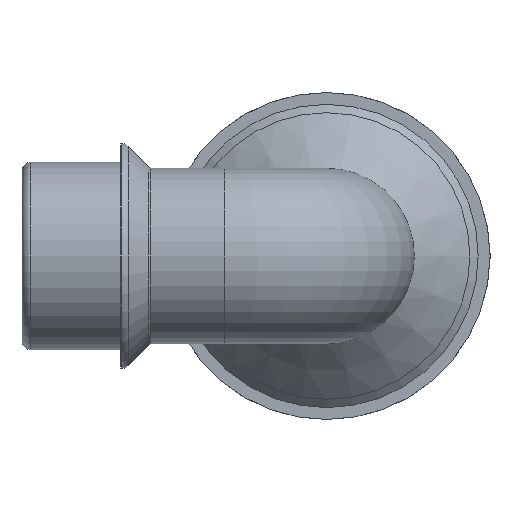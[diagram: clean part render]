
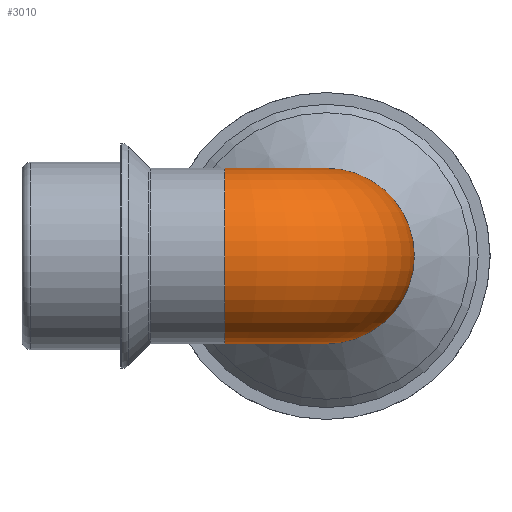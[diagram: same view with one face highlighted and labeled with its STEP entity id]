
A CAD part, left-side view. The second image highlights one B-rep face of the part: STEP entity #3010.
In plain terms, the highlighted toroidal (fillet/blend) face has major radius 22.76 mm and minor radius 19.593 mm.
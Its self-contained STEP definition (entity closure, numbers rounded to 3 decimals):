
#609=TOROIDAL_SURFACE('',#3229,22.76,19.593);
#629=FACE_BOUND('',#871,.T.);
#655=FACE_OUTER_BOUND('',#870,.T.);
#870=EDGE_LOOP('',(#2026));
#871=EDGE_LOOP('',(#2027));
#1102=CIRCLE('',#3222,19.593);
#1107=CIRCLE('',#3230,19.593);
#1282=VERTEX_POINT('',#4581);
#1287=VERTEX_POINT('',#4594);
#1558=EDGE_CURVE('',#1282,#1282,#1102,.T.);
#1563=EDGE_CURVE('',#1287,#1287,#1107,.T.);
#2026=ORIENTED_EDGE('',*,*,#1563,.F.);
#2027=ORIENTED_EDGE('',*,*,#1558,.T.);
#3010=ADVANCED_FACE('',(#655,#629),#609,.T.);
#3222=AXIS2_PLACEMENT_3D('',#4582,#3617,#3618);
#3229=AXIS2_PLACEMENT_3D('',#4593,#3631,#3632);
#3230=AXIS2_PLACEMENT_3D('',#4595,#3633,#3634);
#3617=DIRECTION('center_axis',(0.,-1.,0.));
#3618=DIRECTION('ref_axis',(-1.,0.,0.));
#3631=DIRECTION('center_axis',(0.,0.,1.));
#3632=DIRECTION('ref_axis',(1.,0.,0.));
#3633=DIRECTION('center_axis',(1.,0.,0.));
#3634=DIRECTION('ref_axis',(0.,0.,-1.));
#4581=CARTESIAN_POINT('',(19.593,22.76,0.));
#4582=CARTESIAN_POINT('Origin',(0.,22.76,0.));
#4593=CARTESIAN_POINT('Origin',(22.76,22.76,0.));
#4594=CARTESIAN_POINT('',(22.76,19.593,0.));
#4595=CARTESIAN_POINT('Origin',(22.76,0.,0.));
